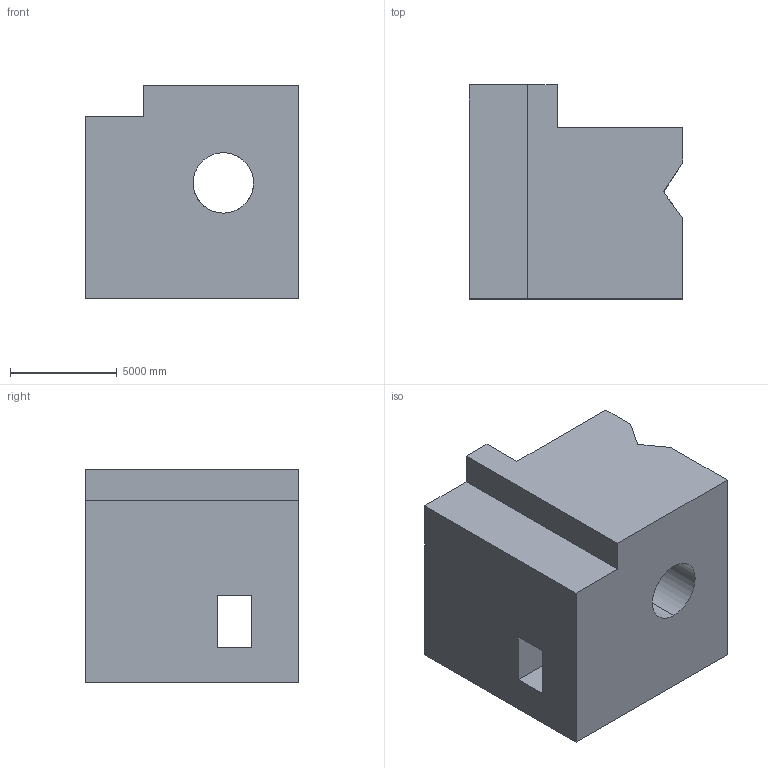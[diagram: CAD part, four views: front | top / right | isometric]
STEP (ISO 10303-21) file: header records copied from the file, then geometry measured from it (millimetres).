
FILE_DESCRIPTION (( 'STEP AP203' ), '1' );
FILE_NAME ('1625.STEP', '2022-08-19T11:08:44', ( 'user' ), ( '' ), 'SwSTEP 2.0', 'SolidWorks 2021', '' );
FILE_SCHEMA (( 'CONFIG_CONTROL_DESIGN' ));
Length unit declared in the file: centimetre
Products named in the file (1): 1625
Bounding box: 10000 x 10000 x 10000 mm (x, y, z)
Volume: 694056957262.5 mm3; surface area: 705513038.4 mm2
Topology: 1 solids, 1 shells, 33 faces, 108 edges, 72 vertices
Faces by surface type: plane 25, cylinder 8
Entity records: 1444 total; most frequent: CARTESIAN_POINT 428, ORIENTED_EDGE 216, DIRECTION 175, EDGE_CURVE 108, LINE 81, VECTOR 81, VERTEX_POINT 72, AXIS2_PLACEMENT_3D 47
